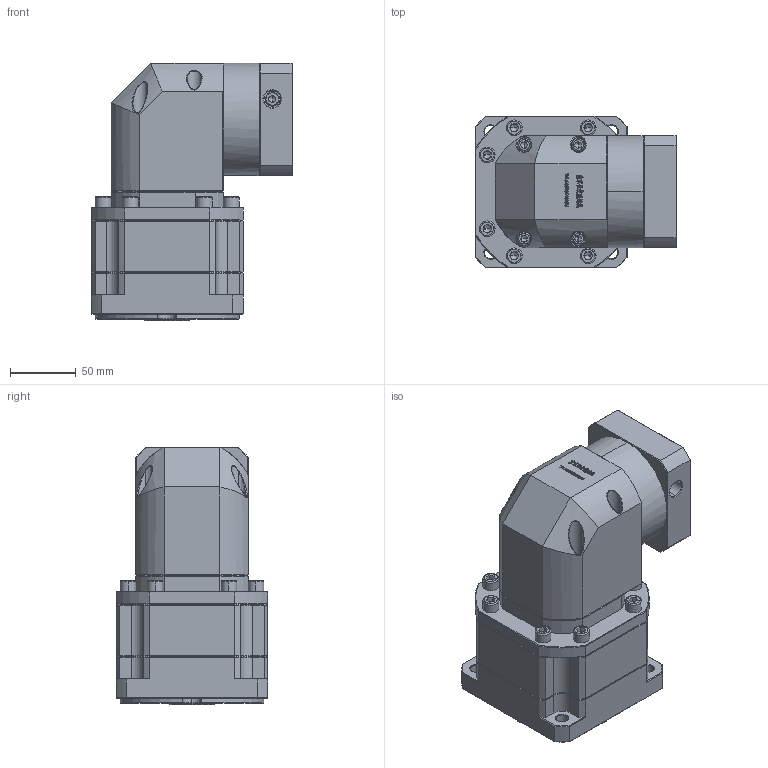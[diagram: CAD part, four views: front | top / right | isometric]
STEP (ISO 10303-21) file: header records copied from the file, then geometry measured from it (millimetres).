
FILE_DESCRIPTION (( 'STEP AP214' ), '1' );
FILE_NAME ('ZBR115A-K25-L2-14-73-69.5X69.5-M6.step', '2023-03-02T14:39:16', ( '' ), ( 'Microsoft' ), 'SwSTEP 2.0', 'SolidWorks 2016', '' );
FILE_SCHEMA (( 'AUTOMOTIVE_DESIGN' ));
Length unit declared in the file: millimetre
Products named in the file (1): ZBR115A-K25-L2-14-73-69.5X69.5-M6
Bounding box: 152.6 x 115 x 195 mm (x, y, z)
Volume: 1890115 mm3; surface area: 174809.2 mm2
Topology: 6 solids, 6 shells, 3142 faces, 8244 edges, 5253 vertices
Faces by surface type: plane 1694, bspline 624, cylinder 444, cone 366, torus 14
Entity records: 165286 total; most frequent: CARTESIAN_POINT 58225, ORIENTED_EDGE 16384, DIRECTION 12653, EDGE_CURVE 8192, LINE 5545, VECTOR 5545, VERTEX_POINT 5253, AXIS2_PLACEMENT_3D 3554
